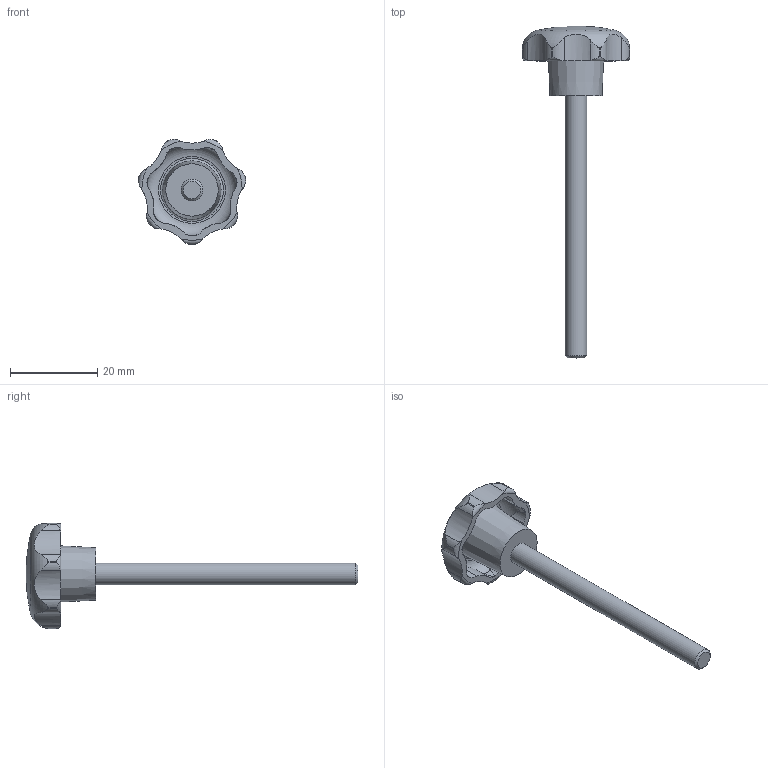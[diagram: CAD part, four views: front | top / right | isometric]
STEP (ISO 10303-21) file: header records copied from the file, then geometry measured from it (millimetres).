
FILE_DESCRIPTION( ( 'STEP AP203' ), '1' );
FILE_NAME( 'C:/Temp/Ganter_Step_05_03_2020/data/2_2/gn_6336_4/gn_6336_4_st/Star knob GN 6336.4-ST-25-M6-60.stp', '2020-03-05T12:07:19', ( 'License CC BY-ND 4.0' ), ( 'CADENAS' ), ' ', 'PARTsolutions', ' ' );
FILE_SCHEMA( ( 'CONFIG_CONTROL_DESIGN' ) );
Length unit declared in the file: millimetre
Products named in the file (1): _Star knob GN 6336.4-ST-25-M6-60
Bounding box: 24.52 x 76 x 24.06 mm (x, y, z)
Volume: 4304.9 mm3; surface area: 2957.7 mm2
Topology: 1 solids, 1 shells, 74 faces, 209 edges, 138 vertices
Faces by surface type: cylinder 50, torus 10, cone 10, plane 3, sphere 1
Full cylindrical faces by diameter (mm): 5 x1
Entity records: 3129 total; most frequent: CARTESIAN_POINT 1317, ORIENTED_EDGE 394, DIRECTION 336, EDGE_CURVE 197, AXIS2_PLACEMENT_3D 147, VERTEX_POINT 135, EDGE_LOOP 83, B_SPLINE_CURVE_WITH_KNOTS 83
